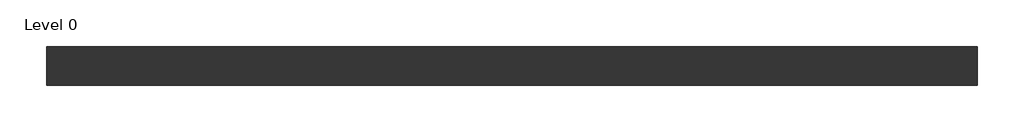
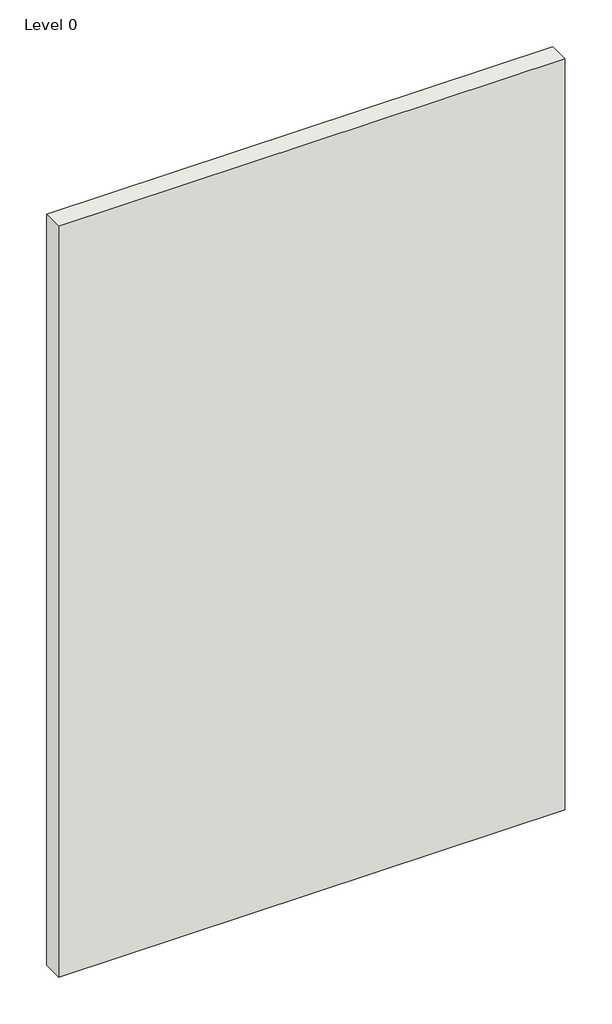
# One storey: 1 wall.
"""IFC4 building model written with IfcOpenShell, lengths in millimetres."""

from ifc_helpers import new_model, si_unit, origin, origin_with_axes, place, context, project, spatial, polyline, outline, extrude, element, save

model = new_model("IFC4")

# Units and contexts
model_context = context("Model", 3, world=origin())
ifc_project = project(units=[si_unit("LENGTHUNIT", "METRE", prefix="MILLI")], contexts=[model_context])

# Site, building, storey
site = spatial("IfcSite", under=ifc_project)
building = spatial("IfcBuilding", under=site)
storey = spatial("IfcBuildingStorey", under=building, Name="Level 0", Elevation=0.0)

# Wall
placement = place(None, origin())
element("IfcWall", 1, ObjectType="A206262 - GypWall CLASSIC", at=placement, inside=storey, context=model_context, shape_type="SweptSolid", body=[
    extrude(outline(polyline([(2116.0807354, 531.7205641), (-883.9192646, 531.7205641), (-883.9192646, 655.7205641), (2116.0807354, 655.7205641), (2116.0807354, 531.7205641)])), origin_with_axes(), (0.0, 0.0, 1.0), 4700.0),
])

save(model, "model.ifc")
